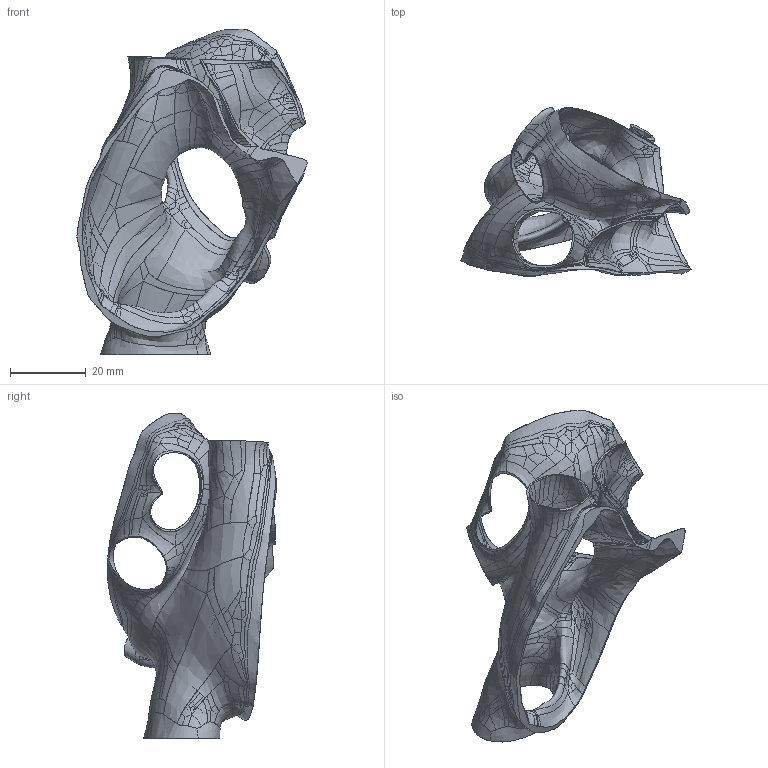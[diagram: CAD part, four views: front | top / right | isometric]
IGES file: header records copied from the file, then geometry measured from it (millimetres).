
Global section: file name: C:\FDA Main\FDA-Septal-Models\8909651\Thin area fixes\8909651.phase.70.2.igs; native system: Rhinoceros ( Mar  9 2011 ); preprocessor: Trout Lake IGES 012 Mar  9 2011; date: 120615.192500; units: millimetre
Bounding box: 60.73 x 44.6 x 85.92 mm (x, y, z)
Surface area: 17344.1 mm2 (no closed solid volume)
Topology: 0 solids, 0 shells, 1124 faces, 4492 edges, 4488 vertices
Faces by surface type: bspline 1124
